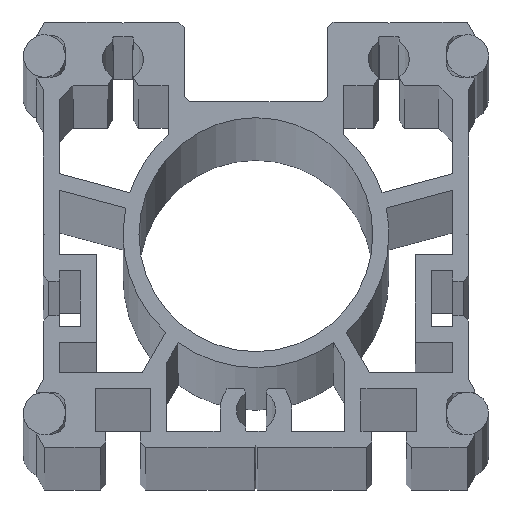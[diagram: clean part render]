
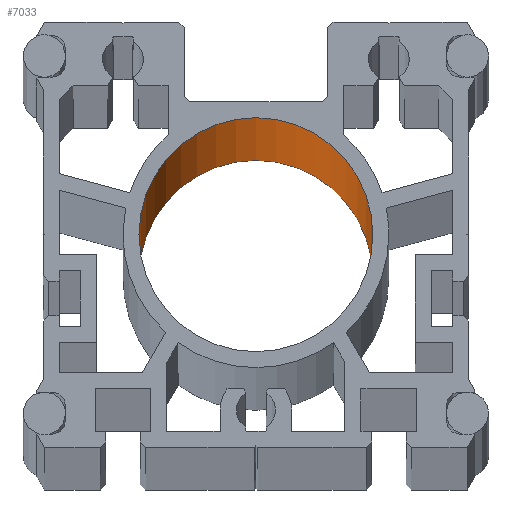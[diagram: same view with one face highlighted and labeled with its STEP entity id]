
A CAD part, top view. The second image highlights one B-rep face of the part: STEP entity #7033.
In plain terms, the highlighted cylindrical face has radius 22 mm (diameter 44 mm), a partial arc.
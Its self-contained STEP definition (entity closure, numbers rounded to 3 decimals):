
#66 = VERTEX_POINT ( 'NONE', #2384 ) ;
#67 = VERTEX_POINT ( 'NONE', #2383 ) ;
#69 = VERTEX_POINT ( 'NONE', #2382 ) ;
#187 = EDGE_CURVE ( 'NONE', #67, #237, #844, .T. ) ;
#234 = EDGE_CURVE ( 'NONE', #66, #69, #1269, .T. ) ;
#237 = VERTEX_POINT ( 'NONE', #1255 ) ;
#841 = DIRECTION ( 'NONE',  ( 0., 0., 1. ) ) ;
#842 = VECTOR ( 'NONE', #841, 1000. ) ;
#843 = CARTESIAN_POINT ( 'NONE',  ( 22., 40., -2299. ) ) ;
#844 = LINE ( 'NONE', #843, #842 ) ;
#1255 = CARTESIAN_POINT ( 'NONE',  ( 22., 40., 2299. ) ) ;
#1261 = DIRECTION ( 'NONE',  ( 0., 0., 1. ) ) ;
#1262 = VECTOR ( 'NONE', #1261, 1000. ) ;
#1263 = CARTESIAN_POINT ( 'NONE',  ( -22., 40., -2299. ) ) ;
#1269 = LINE ( 'NONE', #1263, #1262 ) ;
#2382 = CARTESIAN_POINT ( 'NONE',  ( -22., 40., 2299. ) ) ;
#2383 = CARTESIAN_POINT ( 'NONE',  ( 22., 40., -2299. ) ) ;
#2384 = CARTESIAN_POINT ( 'NONE',  ( -22., 40., -2299. ) ) ;
#3075 = DIRECTION ( 'NONE',  ( 1., 0., 0. ) ) ;
#3076 = DIRECTION ( 'NONE',  ( 0., 0., 1. ) ) ;
#3077 = CARTESIAN_POINT ( 'NONE',  ( 0., 40., -2299. ) ) ;
#3078 = AXIS2_PLACEMENT_3D ( 'NONE', #3077, #3076, #3075 ) ;
#3079 = CIRCLE ( 'NONE', #3078, 22. ) ;
#3482 = DIRECTION ( 'NONE',  ( 1., 0., 0. ) ) ;
#3483 = DIRECTION ( 'NONE',  ( 0., 0., 1. ) ) ;
#3484 = AXIS2_PLACEMENT_3D ( 'NONE', #3486, #3483, #3482 ) ;
#3485 = CYLINDRICAL_SURFACE ( 'NONE', #3484, 22. ) ;
#3486 = CARTESIAN_POINT ( 'NONE',  ( 0., 40., -2299. ) ) ;
#3492 = FACE_OUTER_BOUND ( 'NONE', #7029, .T. ) ;
#3494 = DIRECTION ( 'NONE',  ( 1., 0., 0. ) ) ;
#3495 = DIRECTION ( 'NONE',  ( 0., 0., 1. ) ) ;
#3496 = CARTESIAN_POINT ( 'NONE',  ( 0., 40., 2299. ) ) ;
#3497 = AXIS2_PLACEMENT_3D ( 'NONE', #3496, #3495, #3494 ) ;
#3498 = CIRCLE ( 'NONE', #3497, 22. ) ;
#6420 = EDGE_CURVE ( 'NONE', #67, #66, #3079, .T. ) ;
#7027 = EDGE_CURVE ( 'NONE', #237, #69, #3498, .T. ) ;
#7029 = EDGE_LOOP ( 'NONE', ( #7034, #7059, #7060, #7061 ) ) ;
#7033 = ADVANCED_FACE ( 'NONE', ( #3492 ), #3485, .F. ) ;
#7034 = ORIENTED_EDGE ( 'NONE', *, *, #234, .F. ) ;
#7059 = ORIENTED_EDGE ( 'NONE', *, *, #6420, .F. ) ;
#7060 = ORIENTED_EDGE ( 'NONE', *, *, #187, .T. ) ;
#7061 = ORIENTED_EDGE ( 'NONE', *, *, #7027, .T. ) ;
